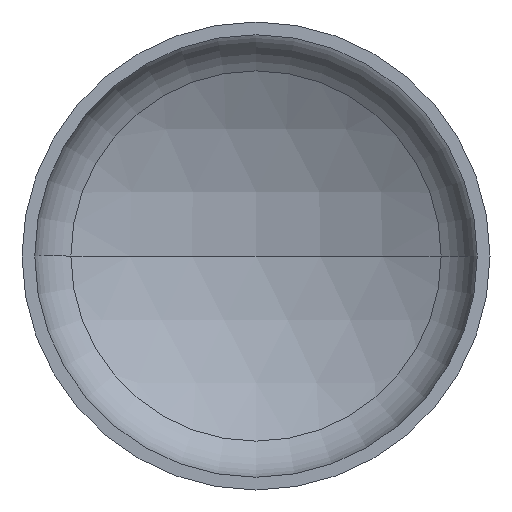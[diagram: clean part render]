
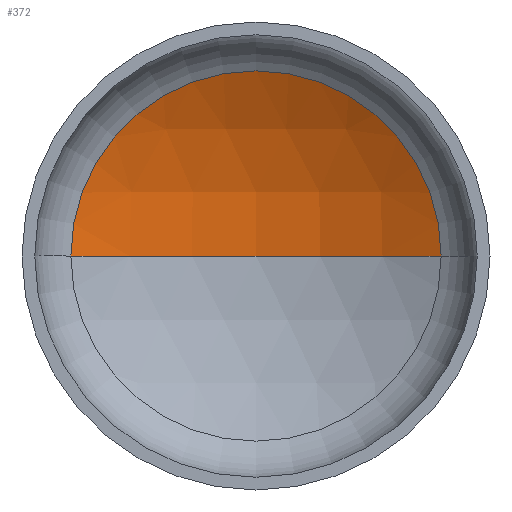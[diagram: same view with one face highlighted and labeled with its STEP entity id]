
A CAD part, front view. The second image highlights one B-rep face of the part: STEP entity #372.
In plain terms, the highlighted spherical face has radius 1440 mm.
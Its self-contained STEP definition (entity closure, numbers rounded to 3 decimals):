
#7 = AXIS2_PLACEMENT_3D ( 'NONE', #169, #141, #164 ) ;
#8 = EDGE_LOOP ( 'NONE', ( #42, #30, #136 ) ) ;
#9 = VERTEX_POINT ( 'NONE', #294 ) ;
#15 = DIRECTION ( 'NONE',  ( 0., -1., 0. ) ) ;
#19 = AXIS2_PLACEMENT_3D ( 'NONE', #154, #168, #148 ) ;
#30 = ORIENTED_EDGE ( 'NONE', *, *, #170, .T. ) ;
#32 = CARTESIAN_POINT ( 'NONE',  ( 0., 389.036, 0. ) ) ;
#42 = ORIENTED_EDGE ( 'NONE', *, *, #356, .F. ) ;
#70 = AXIS2_PLACEMENT_3D ( 'NONE', #227, #228, #239 ) ;
#71 = AXIS2_PLACEMENT_3D ( 'NONE', #32, #15, #205 ) ;
#78 = VERTEX_POINT ( 'NONE', #275 ) ;
#99 = VERTEX_POINT ( 'NONE', #249 ) ;
#136 = ORIENTED_EDGE ( 'NONE', *, *, #156, .T. ) ;
#138 = CIRCLE ( 'NONE', #19, 1440. ) ;
#141 = DIRECTION ( 'NONE',  ( 0., 0., -1. ) ) ;
#148 = DIRECTION ( 'NONE',  ( 1., 0., 0. ) ) ;
#154 = CARTESIAN_POINT ( 'NONE',  ( 0., -862.645, 0. ) ) ;
#156 = EDGE_CURVE ( 'NONE', #99, #9, #363, .T. ) ;
#164 = DIRECTION ( 'NONE',  ( -1., 0., 0. ) ) ;
#168 = DIRECTION ( 'NONE',  ( 0., 0., 1. ) ) ;
#169 = CARTESIAN_POINT ( 'NONE',  ( 0., -862.645, 0. ) ) ;
#170 = EDGE_CURVE ( 'NONE', #78, #99, #176, .T. ) ;
#176 = CIRCLE ( 'NONE', #70, 1440. ) ;
#205 = DIRECTION ( 'NONE',  ( 1., 0., 0. ) ) ;
#207 = SPHERICAL_SURFACE ( 'NONE', #7, 1440. ) ;
#227 = CARTESIAN_POINT ( 'NONE',  ( 0., -862.645, 0. ) ) ;
#228 = DIRECTION ( 'NONE',  ( 0., 0., -1. ) ) ;
#239 = DIRECTION ( 'NONE',  ( -1., 0., 0. ) ) ;
#249 = CARTESIAN_POINT ( 'NONE',  ( 711.966, 389.036, 0. ) ) ;
#275 = CARTESIAN_POINT ( 'NONE',  ( 0., 577.355, 0. ) ) ;
#294 = CARTESIAN_POINT ( 'NONE',  ( -711.966, 389.036, 0. ) ) ;
#329 = FACE_OUTER_BOUND ( 'NONE', #8, .T. ) ;
#356 = EDGE_CURVE ( 'NONE', #78, #9, #138, .T. ) ;
#363 = CIRCLE ( 'NONE', #71, 711.966 ) ;
#372 = ADVANCED_FACE ( 'NONE', ( #329 ), #207, .F. ) ;
